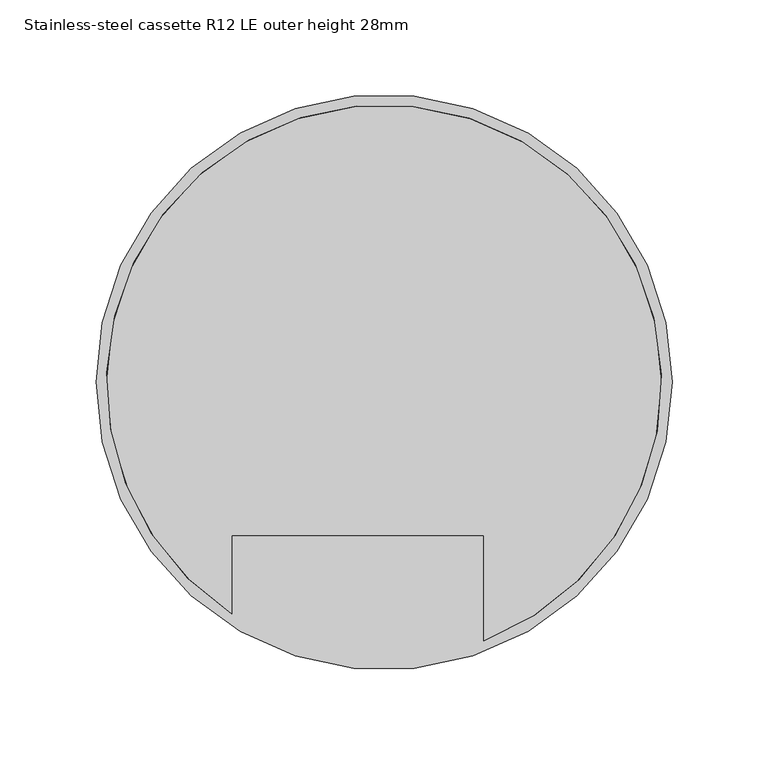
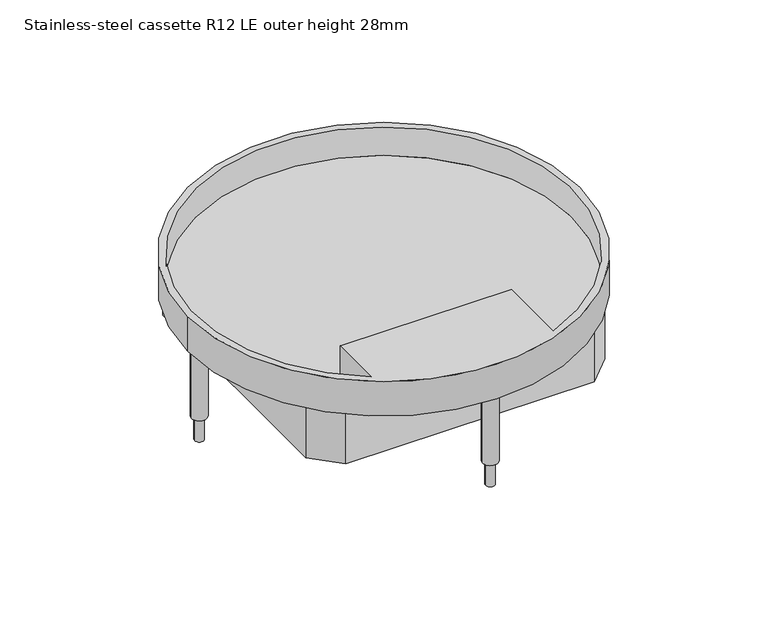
"""IFC4 building model written with IfcOpenShell, lengths in millimetres: proxy geometry, Electrical_Installation_Hager_VE-EE_EKR-Height-adjustable-stainless-steel-cassette-with-square-cable-outlet-for-dry-cleaned-floors : Stainless-steel cassette R12 LE outer height 28mm."""

from ifc_helpers import new_model, si_unit, point, frame, frame_2d, origin, place, context, project, spatial, polyline, circle_curve, trimmed, segment, composite_curve, outline, extrude, source, transform, mapped, element, save
from ifc_brep_helpers import plane_surface, cylinder_surface, revolved_surface, advanced_brep


def stainless_steel_cassette_r12_le_outer_height_28mm_2c233eef(model_context):
    return source(origin(), model_context, "Body", "SolidModel", [
        extrude(outline(composite_curve([segment(trimmed(circle_curve(frame_2d((-141.3, 0.0)), 3.5), [point((-144.8, 0.0))], [point((-137.8, 0.0))], False, "CARTESIAN"), True, "CONTINUOUS"), segment(trimmed(circle_curve(frame_2d((-141.3, 0.0)), 3.5), [point((-137.8, 0.0))], [point((-144.8, 0.0))], False, "CARTESIAN"), True, "CONTINUOUS")], self_intersect=False)), frame((0.0, 0.0, -100.0), z_axis=(0.0, 0.0, 1.0), x_axis=(1.0, 0.0, 0.0)), (0.0, 0.0, 1.0), 74.011943),
        extrude(outline(composite_curve([segment(trimmed(circle_curve(frame_2d((0.0, 141.3)), 3.5), [point((-3.5, 141.3))], [point((3.5, 141.3))], False, "CARTESIAN"), True, "CONTINUOUS"), segment(trimmed(circle_curve(frame_2d((0.0, 141.3)), 3.5), [point((3.5, 141.3))], [point((-3.5, 141.3))], False, "CARTESIAN"), True, "CONTINUOUS")], self_intersect=False)), frame((0.0, 0.0, -100.0), z_axis=(0.0, 0.0, 1.0), x_axis=(1.0, 0.0, 0.0)), (0.0, 0.0, 1.0), 74.011943),
        extrude(outline(composite_curve([segment(trimmed(circle_curve(frame_2d((141.3, 0.0)), 3.548869), [point((137.751131, 0.0))], [point((144.848869, 0.0))], False, "CARTESIAN"), True, "CONTINUOUS"), segment(trimmed(circle_curve(frame_2d((141.3, 0.0)), 3.548869), [point((144.848869, 0.0))], [point((137.751131, 0.0))], False, "CARTESIAN"), True, "CONTINUOUS")], self_intersect=False)), frame((0.0, 0.0, -100.0), z_axis=(0.0, 0.0, 1.0), x_axis=(1.0, 0.0, 0.0)), (0.0, 0.0, 1.0), 74.011943),
        extrude(outline(composite_curve([segment(trimmed(circle_curve(frame_2d((0.0, -141.3)), 3.5), [point((-3.5, -141.3))], [point((3.5, -141.3))], False, "CARTESIAN"), True, "CONTINUOUS"), segment(trimmed(circle_curve(frame_2d((0.0, -141.3)), 3.5), [point((3.5, -141.3))], [point((-3.5, -141.3))], False, "CARTESIAN"), True, "CONTINUOUS")], self_intersect=False)), frame((0.0, 0.0, -100.0), z_axis=(0.0, 0.0, 1.0), x_axis=(1.0, 0.0, 0.0)), (0.0, 0.0, 1.0), 74.011943),
        advanced_brep(
        [(-144.5, 0.0, -20.988057), (-79.2284089, -120.8433251, -20.988057), (-79.2284089, -79.7709238, -20.988057), (51.8974749, -79.7709238, -20.988057), (51.8974749, -134.8588228, -20.988057), (144.5, 0.0, -20.988057), (-150.0, 0.0, -25.988057), (150.0, 0.0, -25.988057), (-150.0, 0.0, 2.011943), (150.0, 0.0, 2.011943), (-79.2284089, -120.8433251, 2.011943), (51.8974749, -134.8588228, 2.011943), (51.8974749, -79.7709238, 2.011943), (-79.2284089, -79.7709238, 2.011943)],
        [
            (0, 1, circle_curve(frame((0.0, 0.0, -20.988057), z_axis=(0.0, 0.0, 1.0), x_axis=(1.0, 0.0, 0.0)), 144.5)),
            (1, 2),
            (2, 3),
            (3, 4),
            (4, 5, circle_curve(frame((0.0, 0.0, -20.988057), z_axis=(0.0, 0.0, 1.0), x_axis=(1.0, 0.0, 0.0)), 144.5)),
            (5, 0, circle_curve(frame((0.0, 0.0, -20.988057), z_axis=(0.0, 0.0, 1.0), x_axis=(1.0, 0.0, 0.0)), 144.5)),
            (6, 7, circle_curve(frame((0.0, 0.0, -25.988057), z_axis=(0.0, 0.0, -1.0), x_axis=(1.0, 0.0, 0.0)), 150.0)),
            (7, 6, circle_curve(frame((0.0, 0.0, -25.988057), z_axis=(0.0, 0.0, -1.0), x_axis=(1.0, 0.0, 0.0)), 150.0)),
            (8, 9, circle_curve(frame((0.0, 0.0, 2.011943), z_axis=(0.0, 0.0, 1.0), x_axis=(1.0, 0.0, 0.0)), 150.0)),
            (9, 8, circle_curve(frame((0.0, 0.0, 2.011943), z_axis=(0.0, 0.0, 1.0), x_axis=(1.0, 0.0, 0.0)), 150.0)),
            (10, 11, circle_curve(frame((0.0, 0.0, 2.011943), z_axis=(0.0, 0.0, -1.0), x_axis=(1.0, 0.0, 0.0)), 144.5)),
            (11, 12),
            (12, 13),
            (13, 10),
            (8, 6),
            (7, 9),
            (10, 1),
            (4, 11),
            (3, 12),
            (2, 13),
        ],
        [
            plane_surface(frame((144.5, 0.0, -20.988057), z_axis=(0.0, 0.0, 1.0), x_axis=(0.0, 1.0, 0.0))),
            plane_surface(frame((144.5, 0.0, -25.988057), z_axis=(0.0, 0.0, -1.0), x_axis=(0.0, -1.0, 0.0))),
            plane_surface(frame((150.0, 0.0, 2.011943), z_axis=(0.0, 0.0, 1.0), x_axis=(0.0, 1.0, 0.0))),
            cylinder_surface(frame((0.0, 0.0, -25.988057), z_axis=(0.0, 0.0, 1.0), x_axis=(1.0, 0.0, 0.0)), 150.0),
            revolved_surface(polyline([(144.5, 0.0, -20.988057), (144.5, 0.0, 2.011943)]), (0.0, 0.0, 0.0), (0.0, 0.0, -1.0)),
            plane_surface(frame((51.8974749, -134.8588228, 2.011943), z_axis=(1.0, 0.0, 0.0), x_axis=(0.0, 0.0, -1.0))),
            plane_surface(frame((51.8974749, -79.7709238, 2.011943), z_axis=(0.0, 1.0, 0.0), x_axis=(0.0, 0.0, -1.0))),
            plane_surface(frame((-79.2284089, -79.7709238, 2.011943), z_axis=(-1.0, 0.0, 0.0), x_axis=(0.0, 0.0, -1.0))),
        ],
        [
            (0, [[1, 2, 3, 4, 5, 6]]),
            (1, [[7, 8]]),
            (2, [[9, 10], [11, 12, 13, 14]]),
            (3, [[-9, 15, -8, 16]]),
            (3, [[-10, -16, -7, -15]]),
            (4, [[-11, 17, -1, -6, -5, 18]]),
            (5, [[-12, -18, -4, 19]]),
            (6, [[-13, -19, -3, 20]]),
            (7, [[-14, -20, -2, -17]]),
        ],
    ),
        extrude(outline(polyline([(94.9818914, 114.5), (114.5, 94.9818914), (114.5, -94.9818914), (94.9818914, -114.5), (-94.9818914, -114.5), (-114.5, -94.9818914), (-114.5, 94.9818914), (-94.9818914, 114.5), (94.9818914, 114.5)]), holes=[polyline([(-111.5, 93.8602374), (-111.5, -93.8602374), (-93.8602374, -111.5), (93.8602374, -111.5), (111.5, -93.8602374), (111.5, 93.8602374), (93.8602374, 111.5), (-93.8602374, 111.5), (-111.5, 93.8602374)])]), frame((0.0, 0.0, -66.9297651), z_axis=(0.0, 0.0, 1.0), x_axis=(1.0, 0.0, 0.0)), (0.0, 0.0, 1.0), 40.9417081),
        extrude(outline(composite_curve([segment(trimmed(circle_curve(frame_2d((0.0, 141.3)), 5.9738904), [point((-5.9738904, 141.3))], [point((5.9738904, 141.3))], False, "CARTESIAN"), True, "CONTINUOUS"), segment(trimmed(circle_curve(frame_2d((0.0, 141.3)), 5.9738904), [point((5.9738904, 141.3))], [point((-5.9738904, 141.3))], False, "CARTESIAN"), True, "CONTINUOUS")], self_intersect=False)), frame((0.0, 0.0, -81.0371838), z_axis=(0.0, 0.0, 1.0), x_axis=(1.0, 0.0, 0.0)), (0.0, 0.0, 1.0), 55.0491267),
        extrude(outline(composite_curve([segment(trimmed(circle_curve(frame_2d((141.3, 0.0)), 6.0), [point((135.3, 0.0))], [point((147.3, 0.0))], False, "CARTESIAN"), True, "CONTINUOUS"), segment(trimmed(circle_curve(frame_2d((141.3, 0.0)), 6.0), [point((147.3, 0.0))], [point((135.3, 0.0))], False, "CARTESIAN"), True, "CONTINUOUS")], self_intersect=False)), frame((0.0, 0.0, -81.0371838), z_axis=(0.0, 0.0, 1.0), x_axis=(1.0, 0.0, 0.0)), (0.0, 0.0, 1.0), 55.0491267),
        extrude(outline(composite_curve([segment(trimmed(circle_curve(frame_2d((0.0, -141.3)), 6.0), [point((-6.0, -141.3))], [point((6.0, -141.3))], False, "CARTESIAN"), True, "CONTINUOUS"), segment(trimmed(circle_curve(frame_2d((0.0, -141.3)), 6.0), [point((6.0, -141.3))], [point((-6.0, -141.3))], False, "CARTESIAN"), True, "CONTINUOUS")], self_intersect=False)), frame((0.0, 0.0, -81.0371838), z_axis=(0.0, 0.0, 1.0), x_axis=(1.0, 0.0, 0.0)), (0.0, 0.0, 1.0), 55.0491267),
        extrude(outline(composite_curve([segment(trimmed(circle_curve(frame_2d((-141.3, 0.0)), 6.0), [point((-147.3, 0.0))], [point((-135.3, 0.0))], False, "CARTESIAN"), True, "CONTINUOUS"), segment(trimmed(circle_curve(frame_2d((-141.3, 0.0)), 6.0), [point((-135.3, 0.0))], [point((-147.3, 0.0))], False, "CARTESIAN"), True, "CONTINUOUS")], self_intersect=False)), frame((0.0, 0.0, -81.0371838), z_axis=(0.0, 0.0, 1.0), x_axis=(1.0, 0.0, 0.0)), (0.0, 0.0, 1.0), 55.0491267),
    ])


if __name__ == "__main__":
    model = new_model("IFC4")
    model_context = context("Model", 3, world=origin())
    ifc_project = project(units=[si_unit("LENGTHUNIT", "METRE", prefix="MILLI")], contexts=[model_context])
    site = spatial("IfcSite", under=ifc_project)
    building = spatial("IfcBuilding", under=site)
    placement = place(None, origin())
    stainless_steel_cassette_r12_le_outer_height_28mm_shape = stainless_steel_cassette_r12_le_outer_height_28mm_2c233eef(model_context)
    element("IfcBuildingElementProxy", 1, Name="Electrical_Installation_Hager_VE-EE_EKR-Height-adjustable-stainless-steel-cassette-with-square-cable-outlet-for-dry-cleaned-floors : Stainless-steel cassette R12 LE outer height 28mm", ObjectType="Electrical_Installation_Hager_VE-EE_EKR-Height-adjustable-stainless-steel-cassette-with-square-cable-outlet-for-dry-cleaned-floors : Stainless-steel cassette R12 LE outer height 28mm", at=placement, inside=building, context=model_context, shape_type="MappedRepresentation", body=[
        mapped(stainless_steel_cassette_r12_le_outer_height_28mm_shape, transform((0.0, 0.0, 0.0), x_axis=(1.0, 0.0, 0.0), y_axis=(0.0, 1.0, 0.0), z_axis=(0.0, 0.0, 1.0))),
    ])
    save(model, "model.ifc")
